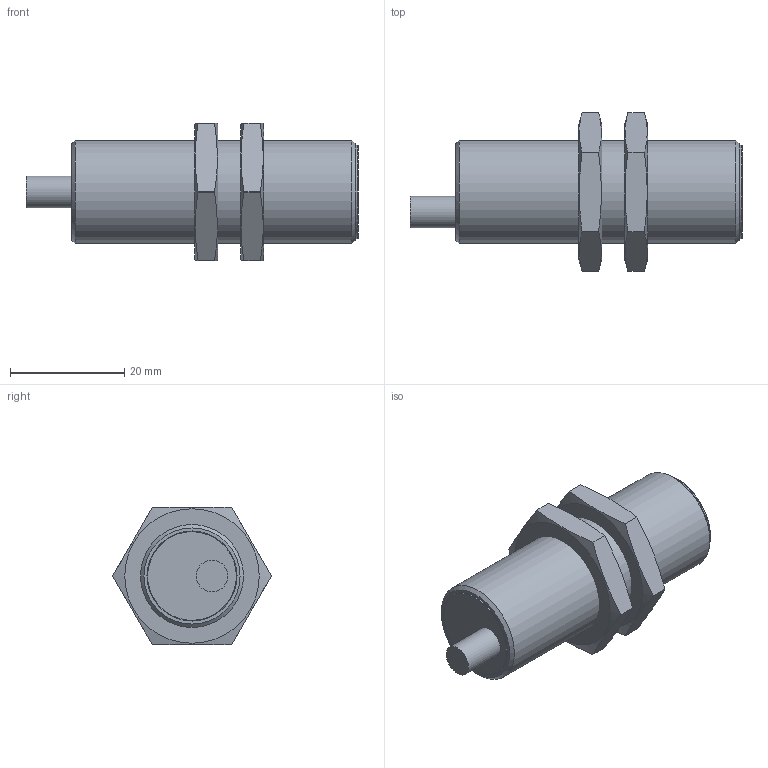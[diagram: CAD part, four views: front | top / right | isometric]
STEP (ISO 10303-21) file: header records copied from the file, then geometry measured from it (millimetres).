
FILE_DESCRIPTION( ( 'Unknown' ), '1' );
FILE_NAME( 'X:/SolidEdge/Models/Dokumentationen/Induktiv/IR18/vereinfachte Modelle/Neutralformate/IR18V.Dxxx-F50.xxxx.9BCU.stp', 'Unknown', ( 'Unknown' ), ( 'Unknown' ), 'PSStep 19.0.9', 'Unknown', ' ' );
FILE_SCHEMA( ( 'AUTOMOTIVE_DESIGN { 1 0 10303 214 1 1 1 1 }' ) );
Length unit declared in the file: millimetre
Products named in the file (3): Assem1; IR18V.Dxxx-F50.xxxx.9BCU; 101474
Assembly tree (3 placements, depth 2):
  Assem1
    IR18V.Dxxx-F50.xxxx.9BCU
    101474  x2
Bounding box: 58 x 27.71 x 24 mm (x, y, z)
Volume: 7342.2 mm3; surface area: 10589.7 mm2
Topology: 3 solids, 4 shells, 274 faces, 753 edges, 490 vertices
Faces by surface type: plane 144, cylinder 64, cone 39, torus 23, bspline 4
Full cylindrical faces by diameter (mm): 1.2 x1, 1.95 x1, 3 x1, 5.5 x2, 14.35 x1, 14.58 x1, 15.05 x1, 15.2 x1, 15.3 x2, 15.45 x1, 15.5 x2, 16.4 x1, 16.917 x2, 18 x1
Entity records: 10284 total; most frequent: CARTESIAN_POINT 1777, DIRECTION 1337, ORIENTED_EDGE 1316, EDGE_CURVE 658, AXIS2_PLACEMENT_3D 481, VERTEX_POINT 444, LINE 375, VECTOR 375
